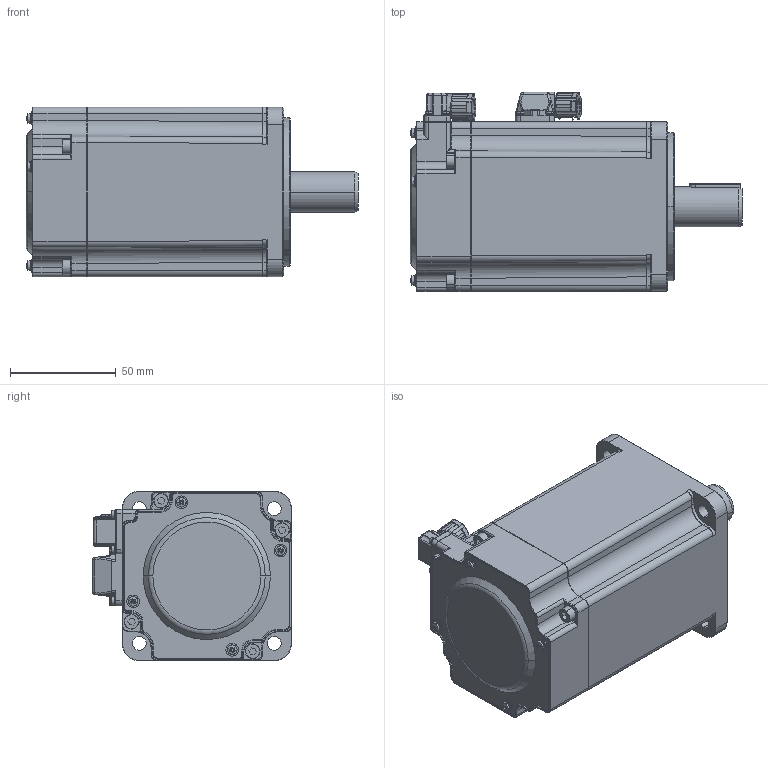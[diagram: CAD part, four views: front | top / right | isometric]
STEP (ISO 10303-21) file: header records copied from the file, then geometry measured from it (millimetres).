
FILE_DESCRIPTION (( 'STEP AP214' ), '1' );
FILE_NAME ('80价陬軞蚾-呿脣.STEP', '2021-12-26T13:23:09', ( '' ), ( '' ), 'SwSTEP 2.0', 'SolidWorks 2021', '' );
FILE_SCHEMA (( 'AUTOMOTIVE_DESIGN' ));
Length unit declared in the file: millimetre
Products named in the file (1): 80价陬軞蚾-呿脣
Bounding box: 156.7 x 94 x 80 mm (x, y, z)
Surface area: 65608.2 mm2 (no closed solid volume)
Topology: 0 solids, 58 shells, 1265 faces, 4580 edges, 3200 vertices
Faces by surface type: plane 482, cylinder 451, torus 145, cone 89, bspline 65, sphere 33
Entity records: 67880 total; most frequent: CARTESIAN_POINT 17135, DIRECTION 7482, ORIENTED_EDGE 7083, EDGE_CURVE 4574, VERTEX_POINT 3198, AXIS2_PLACEMENT_3D 2877, VECTOR 1728, LINE 1728
